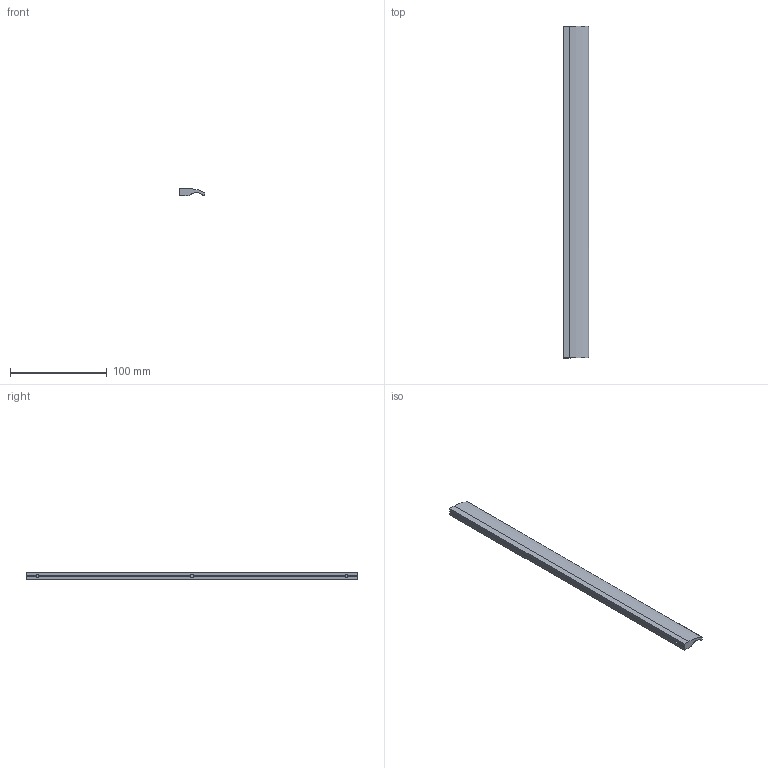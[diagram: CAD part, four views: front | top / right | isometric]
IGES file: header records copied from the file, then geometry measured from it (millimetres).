
Start section: C
Global section: file name: 8216-344.igs; native system: By Siemens PLM Incorporated; preprocessor: XPlus GENERIC/IGES 16.0.42; author: Author; organization: Title; date: 20231210.114034; units: millimetre
Bounding box: 26 x 344 x 8 mm (x, y, z)
Surface area: 23199.7 mm2 (no closed solid volume)
Topology: 0 solids, 0 shells, 27 faces, 156 edges, 156 vertices
Faces by surface type: bspline 27
